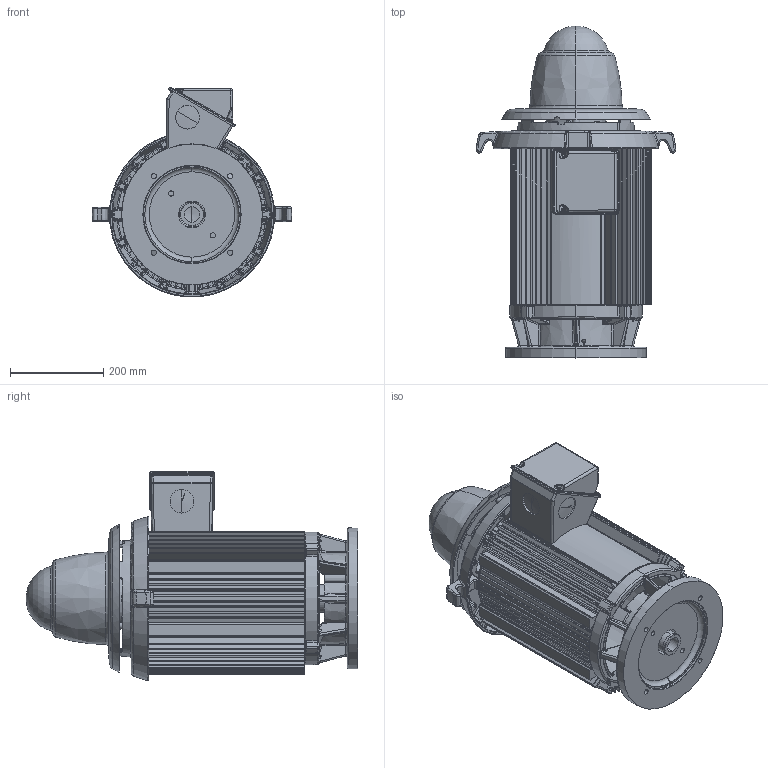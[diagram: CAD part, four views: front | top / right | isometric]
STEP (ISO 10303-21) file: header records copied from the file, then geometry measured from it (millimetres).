
FILE_DESCRIPTION((''),'2;1');
FILE_NAME('250AU_ASSY_ASM','2016-03-31T',('emd2341'),('Nidec Motor Corporation'),'PRO/ENGINEER BY PARAMETRIC TECHNOLOGY CORPORATION, 2013150','PRO/ENGINEER BY PARAMETRIC TECHNOLOGY CORPORATION, 2013150','');
FILE_SCHEMA(('CONFIG_CONTROL_DESIGN'));
Length unit declared in the file: inch
Products named in the file (9): 0380258_AF0; 0396184; 1001456; 0116910; SHAFT; 0396188-CAP; 0364282-OBB; 0364292-CVR; 250AU_ASSY_ASM
Assembly tree (8 placements, depth 2):
  250AU_ASSY_ASM
    0380258_AF0
    0396184
    1001456
    0116910
    SHAFT
    0396188-CAP
    0364282-OBB
    0364292-CVR
Bounding box: 428.26 x 712.67 x 449.97 mm (x, y, z)
Volume: 7843663.8 mm3; surface area: 2632610.7 mm2
Topology: 10 solids, 10 shells, 3325 faces, 8022 edges, 4673 vertices
Faces by surface type: bspline 1131, cylinder 815, plane 622, torus 360, cone 277, sphere 118, extrusion 2
Entity records: 145920 total; most frequent: CARTESIAN_POINT 77589, ORIENTED_EDGE 15934, DIRECTION 12122, EDGE_CURVE 7967, AXIS2_PLACEMENT_3D 5092, VERTEX_POINT 4673, EDGE_LOOP 3452, FACE_OUTER_BOUND 3325
